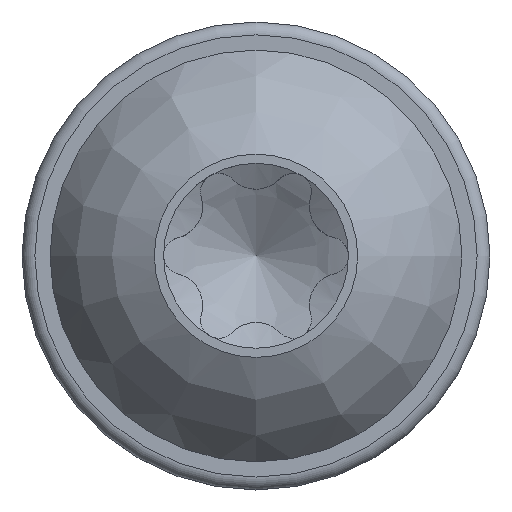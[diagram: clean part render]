
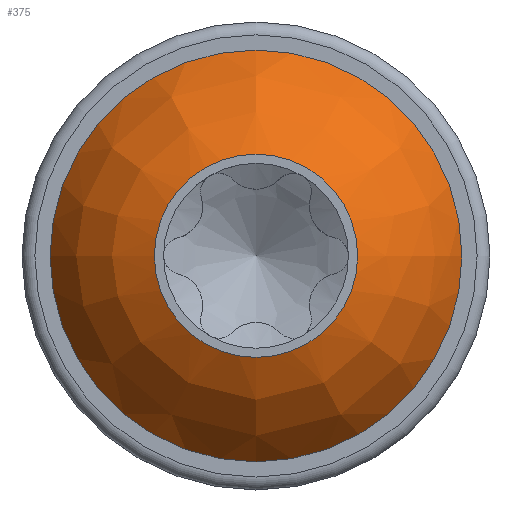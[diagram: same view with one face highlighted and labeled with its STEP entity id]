
A CAD part, top view. The second image highlights one B-rep face of the part: STEP entity #375.
In plain terms, the highlighted free-form (B-spline) face has degree [3, 3] with [4, 7] control points.
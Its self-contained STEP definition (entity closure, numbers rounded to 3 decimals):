
#126=(
BOUNDED_SURFACE()
B_SPLINE_SURFACE(3,3,((#4325,#4326,#4327,#4328,#4329,#4330,#4331),(#4332,
#4333,#4334,#4335,#4336,#4337,#4338),(#4339,#4340,#4341,#4342,#4343,#4344,
#4345),(#4346,#4347,#4348,#4349,#4350,#4351,#4352)),.UNSPECIFIED.,.F.,.T.,
 .F.)
B_SPLINE_SURFACE_WITH_KNOTS((4,4),(1,3,3,3,1),(0.,1.),(-0.5,0.,0.5,1.,1.5),
 .UNSPECIFIED.)
GEOMETRIC_REPRESENTATION_ITEM()
RATIONAL_B_SPLINE_SURFACE(((1.,0.333,0.333,1.,0.333,
0.333,1.),(0.955,0.318,0.318,
0.955,0.318,0.318,0.955),
(0.955,0.318,0.318,0.955,
0.318,0.318,0.955),(1.,0.333,
0.333,1.,0.333,0.333,1.)))
REPRESENTATION_ITEM('')
SURFACE()
);
#343=FACE_BOUND('',#634,.T.);
#344=FACE_BOUND('',#635,.T.);
#375=ADVANCED_FACE('',(#343,#344),#126,.T.);
#634=EDGE_LOOP('',(#845));
#635=EDGE_LOOP('',(#846));
#767=CIRCLE('',#1926,4.4);
#768=CIRCLE('',#1928,2.173);
#845=ORIENTED_EDGE('',*,*,#1545,.F.);
#846=ORIENTED_EDGE('',*,*,#1544,.T.);
#1379=VERTEX_POINT('',#4321);
#1380=VERTEX_POINT('',#4324);
#1544=EDGE_CURVE('',#1379,#1379,#767,.T.);
#1545=EDGE_CURVE('',#1380,#1380,#768,.T.);
#1926=AXIS2_PLACEMENT_3D('',#4320,#2001,#2002);
#1928=AXIS2_PLACEMENT_3D('',#4323,#2005,#2006);
#2001=DIRECTION('',(0.,0.,1.));
#2002=DIRECTION('',(1.,0.,0.));
#2005=DIRECTION('',(0.,0.,1.));
#2006=DIRECTION('',(1.,0.,0.));
#4320=CARTESIAN_POINT('',(0.,0.,1.1));
#4321=CARTESIAN_POINT('',(4.4,0.,1.1));
#4323=CARTESIAN_POINT('',(0.,0.,3.2));
#4324=CARTESIAN_POINT('',(2.173,0.,3.2));
#4325=CARTESIAN_POINT('',(2.173,0.,3.2));
#4326=CARTESIAN_POINT('',(2.173,4.345,3.2));
#4327=CARTESIAN_POINT('',(-2.173,4.345,3.2));
#4328=CARTESIAN_POINT('',(-2.173,0.,3.2));
#4329=CARTESIAN_POINT('',(-2.173,-4.345,3.2));
#4330=CARTESIAN_POINT('',(2.173,-4.345,3.2));
#4331=CARTESIAN_POINT('',(2.173,0.,3.2));
#4332=CARTESIAN_POINT('',(3.162,0.,2.798));
#4333=CARTESIAN_POINT('',(3.162,6.325,2.798));
#4334=CARTESIAN_POINT('',(-3.162,6.325,2.798));
#4335=CARTESIAN_POINT('',(-3.162,0.,2.798));
#4336=CARTESIAN_POINT('',(-3.162,-6.325,2.798));
#4337=CARTESIAN_POINT('',(3.162,-6.325,2.798));
#4338=CARTESIAN_POINT('',(3.162,0.,2.798));
#4339=CARTESIAN_POINT('',(3.94,0.,2.065));
#4340=CARTESIAN_POINT('',(3.94,7.88,2.065));
#4341=CARTESIAN_POINT('',(-3.94,7.88,2.065));
#4342=CARTESIAN_POINT('',(-3.94,0.,2.065));
#4343=CARTESIAN_POINT('',(-3.94,-7.88,2.065));
#4344=CARTESIAN_POINT('',(3.94,-7.88,2.065));
#4345=CARTESIAN_POINT('',(3.94,0.,2.065));
#4346=CARTESIAN_POINT('',(4.4,0.,1.1));
#4347=CARTESIAN_POINT('',(4.4,8.8,1.1));
#4348=CARTESIAN_POINT('',(-4.4,8.8,1.1));
#4349=CARTESIAN_POINT('',(-4.4,0.,1.1));
#4350=CARTESIAN_POINT('',(-4.4,-8.8,1.1));
#4351=CARTESIAN_POINT('',(4.4,-8.8,1.1));
#4352=CARTESIAN_POINT('',(4.4,0.,1.1));
